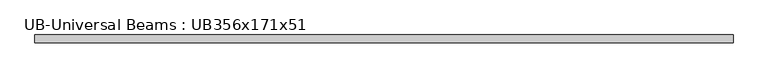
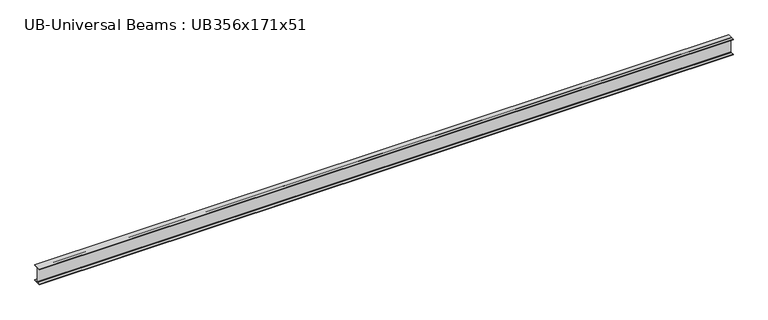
"""IFC4 building model written with IfcOpenShell, lengths in millimetres: beam geometry, UB-Universal Beams : UB356x171x51."""

from ifc_helpers import new_model, si_unit, point, frame, frame_2d, origin, place, context, project, spatial, polyline, circle_curve, trimmed, segment, composite_curve, outline, extrude, source, transform, mapped, element, save


def ub_universal_beams_ub356x171x51_882d7a9f(model_context):
    return source(origin(), model_context, "Body", "SweptSolid", [
        extrude(outline(composite_curve([segment(polyline([(85.75, -166.0), (85.75, -177.5), (-85.75, -177.5), (-85.75, -166.0), (-13.9, -166.0)]), True, "CONTINUOUS"), segment(trimmed(circle_curve(frame_2d((-13.9, -155.8)), 10.2), [point((-13.9, -166.0))], [point((-3.7, -155.8))], True, "CARTESIAN"), True, "CONTINUOUS"), segment(polyline([(-3.7, -155.8), (-3.7, 155.8)]), True, "CONTINUOUS"), segment(trimmed(circle_curve(frame_2d((-13.9, 155.8)), 10.2), [point((-3.7, 155.8))], [point((-13.9, 166.0))], True, "CARTESIAN"), True, "CONTINUOUS"), segment(polyline([(-13.9, 166.0), (-85.75, 166.0), (-85.75, 177.5), (85.75, 177.5), (85.75, 166.0), (13.9, 166.0)]), True, "CONTINUOUS"), segment(trimmed(circle_curve(frame_2d((13.9, 155.8)), 10.2), [point((13.9, 166.0))], [point((3.7, 155.8))], True, "CARTESIAN"), True, "CONTINUOUS"), segment(polyline([(3.7, 155.8), (3.7, -155.8)]), True, "CONTINUOUS"), segment(trimmed(circle_curve(frame_2d((13.9, -155.8)), 10.2), [point((3.7, -155.8))], [point((13.9, -166.0))], True, "CARTESIAN"), True, "CONTINUOUS"), segment(polyline([(13.9, -166.0), (85.75, -166.0)]), True, "CONTINUOUS")], self_intersect=False)), frame((-7500.0, 0.0, 0.0), z_axis=(1.0, 0.0, 0.0), x_axis=(0.0, 1.0, 0.0)), (0.0, 0.0, 1.0), 15000.0),
    ])


if __name__ == "__main__":
    model = new_model("IFC4")
    model_context = context("Model", 3, world=origin())
    ifc_project = project(units=[si_unit("LENGTHUNIT", "METRE", prefix="MILLI")], contexts=[model_context])
    site = spatial("IfcSite", under=ifc_project)
    building = spatial("IfcBuilding", under=site)
    placement = place(None, origin())
    ub_universal_beams_ub356x171x51_shape = ub_universal_beams_ub356x171x51_882d7a9f(model_context)
    element("IfcBeam", 1, ObjectType="UB-Universal Beams : UB356x171x51", at=placement, inside=building, context=model_context, shape_type="MappedRepresentation", body=[
        mapped(ub_universal_beams_ub356x171x51_shape, transform((0.0, 0.0, 0.0), x_axis=(1.0, 0.0, 0.0), y_axis=(0.0, 1.0, 0.0), z_axis=(0.0, 0.0, 1.0))),
    ])
    save(model, "model.ifc")
